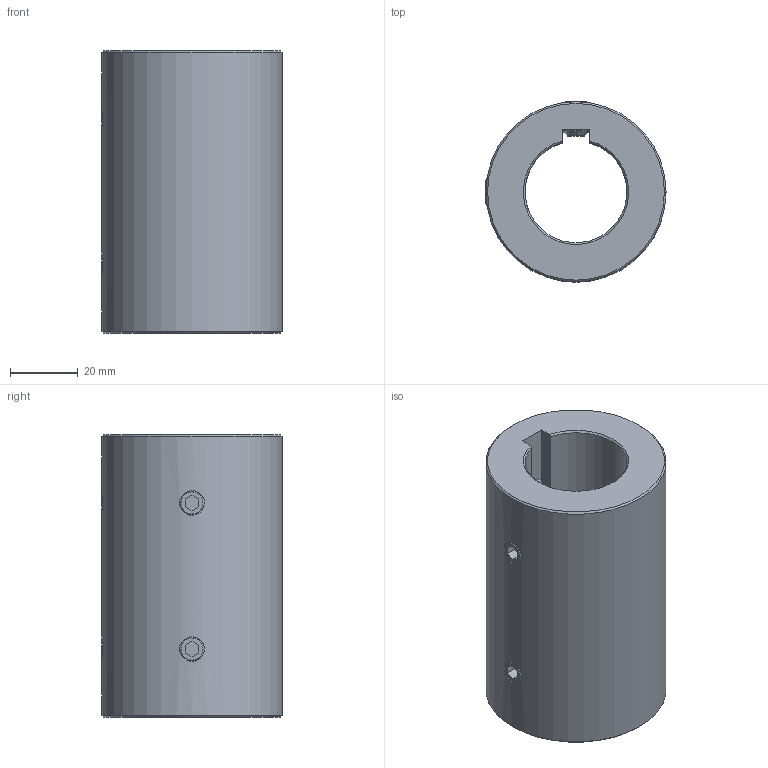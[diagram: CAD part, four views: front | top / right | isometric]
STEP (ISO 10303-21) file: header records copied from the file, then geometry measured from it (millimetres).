
FILE_DESCRIPTION (( 'STEP AP214' ), '1' );
FILE_NAME ('KBST1-VA-N30.STEP', '2025-07-29T07:34:10', ( '' ), ( '' ), 'SwSTEP 2.0', 'SolidWorks 2024', '' );
FILE_SCHEMA (( 'AUTOMOTIVE_DESIGN' ));
Length unit declared in the file: millimetre
Products named in the file (1): KBST1-VA-N30
Bounding box: 53 x 53 x 83 mm (x, y, z)
Volume: 120137.7 mm3; surface area: 27034.9 mm2
Topology: 5 solids, 5 shells, 83 faces, 191 edges, 114 vertices
Faces by surface type: plane 37, cone 28, cylinder 14, bspline 4
Full cylindrical faces by diameter (mm): 6.8 x4, 53 x1
Entity records: 8296 total; most frequent: CARTESIAN_POINT 5536, DIRECTION 358, ORIENTED_EDGE 340, EDGE_CURVE 170, AXIS2_PLACEMENT_3D 122, LINE 114, VECTOR 114, VERTEX_POINT 112
